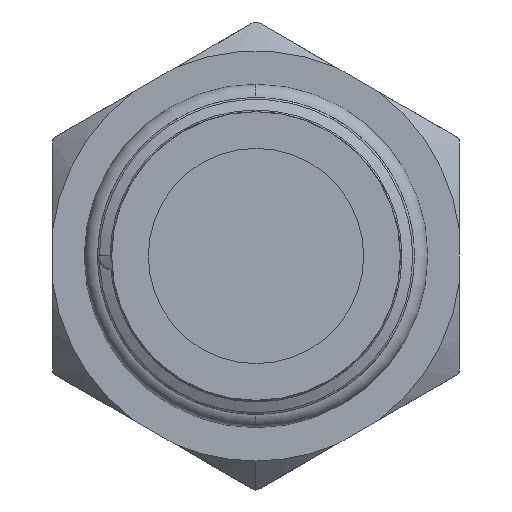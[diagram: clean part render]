
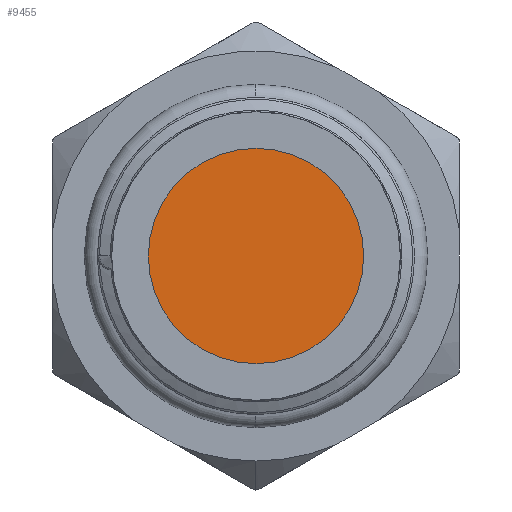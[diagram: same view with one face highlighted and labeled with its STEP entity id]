
A CAD part, left-side view. The second image highlights one B-rep face of the part: STEP entity #9455.
In plain terms, the highlighted planar face has unit normal (-1, 0, 0).
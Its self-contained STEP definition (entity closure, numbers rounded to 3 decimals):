
#19 = EDGE_CURVE ( 'NONE', #558, #544, #5457, .T. ) ;
#197 = AXIS2_PLACEMENT_3D ( 'NONE', #3723, #4101, #4102 ) ;
#406 = ORIENTED_EDGE ( 'NONE', *, *, #8156, .T. ) ;
#407 = ORIENTED_EDGE ( 'NONE', *, *, #19, .T. ) ;
#544 = VERTEX_POINT ( 'NONE', #5410 ) ;
#558 = VERTEX_POINT ( 'NONE', #5343 ) ;
#714 = DIRECTION ( 'NONE',  ( 0., 0., -1. ) ) ;
#715 = DIRECTION ( 'NONE',  ( -1., 0., 0. ) ) ;
#716 = CARTESIAN_POINT ( 'NONE',  ( 3., 0., 0. ) ) ;
#804 = EDGE_LOOP ( 'NONE', ( #406, #407 ) ) ;
#1744 = CARTESIAN_POINT ( 'NONE',  ( 3., 0., 0. ) ) ;
#1745 = DIRECTION ( 'NONE',  ( -1., 0., 0. ) ) ;
#1746 = DIRECTION ( 'NONE',  ( 0., 0., -1. ) ) ;
#3720 = FACE_OUTER_BOUND ( 'NONE', #804, .T. ) ;
#3723 = CARTESIAN_POINT ( 'NONE',  ( 3., 17., -9.815 ) ) ;
#4099 = PLANE ( 'NONE',  #197 ) ;
#4101 = DIRECTION ( 'NONE',  ( 1., 0., 0. ) ) ;
#4102 = DIRECTION ( 'NONE',  ( 0., 0., -1. ) ) ;
#5343 = CARTESIAN_POINT ( 'NONE',  ( 3., 0., -9. ) ) ;
#5410 = CARTESIAN_POINT ( 'NONE',  ( 3., 0., 9. ) ) ;
#5451 = AXIS2_PLACEMENT_3D ( 'NONE', #716, #715, #714 ) ;
#5457 = CIRCLE ( 'NONE', #5451, 9. ) ;
#5488 = AXIS2_PLACEMENT_3D ( 'NONE', #1744, #1745, #1746 ) ;
#5508 = CIRCLE ( 'NONE', #5488, 9. ) ;
#8156 = EDGE_CURVE ( 'NONE', #544, #558, #5508, .T. ) ;
#9455 = ADVANCED_FACE ( 'NONE', ( #3720 ), #4099, .F. ) ;
